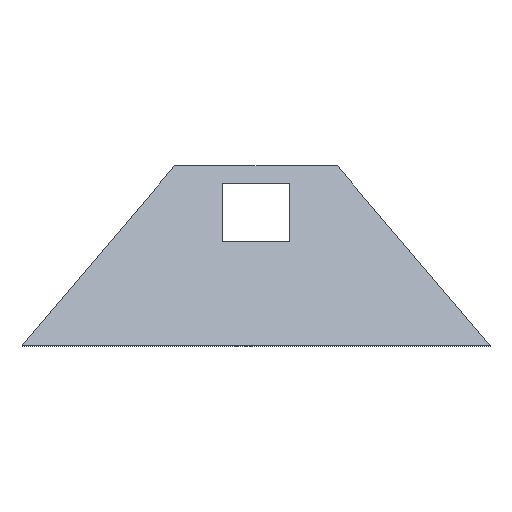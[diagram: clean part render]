
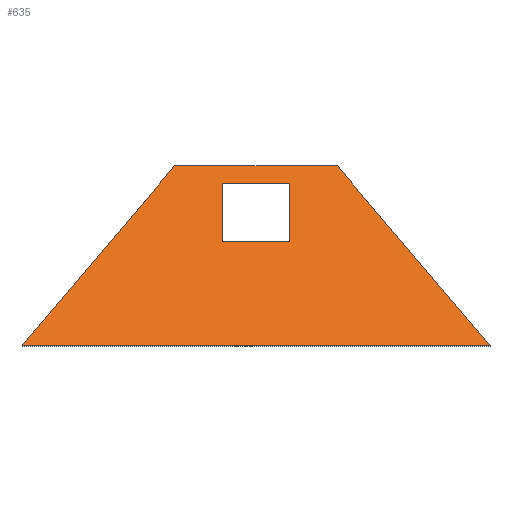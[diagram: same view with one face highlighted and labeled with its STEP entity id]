
A CAD part, top view. The second image highlights one B-rep face of the part: STEP entity #635.
In plain terms, the highlighted planar face has unit normal (0, 0.517, 0.856).
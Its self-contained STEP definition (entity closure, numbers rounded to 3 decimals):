
#22 = VERTEX_POINT('',#23);
#23 = CARTESIAN_POINT('',(-600.,-400.,1600.));
#32 = PLANE('',#33);
#33 = AXIS2_PLACEMENT_3D('',#34,#35,#36);
#34 = CARTESIAN_POINT('',(-600.,-400.,1600.));
#35 = DIRECTION('',(0.,-0.856,0.517));
#36 = DIRECTION('',(1.,0.,0.));
#44 = PLANE('',#45);
#45 = AXIS2_PLACEMENT_3D('',#46,#47,#48);
#46 = CARTESIAN_POINT('',(-1725.,-1725.,2400.));
#47 = DIRECTION('',(0.809,-0.503,0.304));
#48 = DIRECTION('',(0.588,0.692,-0.418));
#85 = VERTEX_POINT('',#86);
#86 = CARTESIAN_POINT('',(600.,-400.,1600.));
#100 = PLANE('',#101);
#101 = AXIS2_PLACEMENT_3D('',#102,#103,#104);
#102 = CARTESIAN_POINT('',(600.,-400.,1600.));
#103 = DIRECTION('',(-0.809,-0.503,0.304));
#104 = DIRECTION('',(0.588,-0.692,0.418));
#112 = EDGE_CURVE('',#22,#85,#113,.T.);
#113 = SURFACE_CURVE('',#114,(#118,#125),.PCURVE_S1.);
#114 = LINE('',#115,#116);
#115 = CARTESIAN_POINT('',(-600.,-400.,1600.));
#116 = VECTOR('',#117,1.);
#117 = DIRECTION('',(1.,0.,0.));
#118 = PCURVE('',#32,#119);
#119 = DEFINITIONAL_REPRESENTATION('',(#120),#124);
#120 = LINE('',#121,#122);
#121 = CARTESIAN_POINT('',(0.,0.));
#122 = VECTOR('',#123,1.);
#123 = DIRECTION('',(1.,0.));
#124 = ( GEOMETRIC_REPRESENTATION_CONTEXT(2) 
PARAMETRIC_REPRESENTATION_CONTEXT() REPRESENTATION_CONTEXT('2D SPACE',''
  ) );
#125 = PCURVE('',#126,#131);
#126 = PLANE('',#127);
#127 = AXIS2_PLACEMENT_3D('',#128,#129,#130);
#128 = CARTESIAN_POINT('',(0.,-1238.346,
    2106.171));
#129 = DIRECTION('',(-0.,-0.517,-0.856));
#130 = DIRECTION('',(0.,-0.856,0.517));
#131 = DEFINITIONAL_REPRESENTATION('',(#132),#136);
#132 = LINE('',#133,#134);
#133 = CARTESIAN_POINT('',(-979.302,600.));
#134 = VECTOR('',#135,1.);
#135 = DIRECTION('',(0.,-1.));
#136 = ( GEOMETRIC_REPRESENTATION_CONTEXT(2) 
PARAMETRIC_REPRESENTATION_CONTEXT() REPRESENTATION_CONTEXT('2D SPACE',''
  ) );
#166 = VERTEX_POINT('',#167);
#167 = CARTESIAN_POINT('',(1725.,-1725.,2400.));
#181 = PLANE('',#182);
#182 = AXIS2_PLACEMENT_3D('',#183,#184,#185);
#183 = CARTESIAN_POINT('',(1725.,-1725.,2400.));
#184 = DIRECTION('',(0.,0.856,-0.517));
#185 = DIRECTION('',(-1.,0.,0.));
#193 = EDGE_CURVE('',#85,#166,#194,.T.);
#194 = SURFACE_CURVE('',#195,(#199,#206),.PCURVE_S1.);
#195 = LINE('',#196,#197);
#196 = CARTESIAN_POINT('',(600.,-400.,1600.));
#197 = VECTOR('',#198,1.);
#198 = DIRECTION('',(0.588,-0.692,0.418));
#199 = PCURVE('',#100,#200);
#200 = DEFINITIONAL_REPRESENTATION('',(#201),#205);
#201 = LINE('',#202,#203);
#202 = CARTESIAN_POINT('',(0.,0.));
#203 = VECTOR('',#204,1.);
#204 = DIRECTION('',(1.,0.));
#205 = ( GEOMETRIC_REPRESENTATION_CONTEXT(2) 
PARAMETRIC_REPRESENTATION_CONTEXT() REPRESENTATION_CONTEXT('2D SPACE',''
  ) );
#206 = PCURVE('',#126,#207);
#207 = DEFINITIONAL_REPRESENTATION('',(#208),#212);
#208 = LINE('',#209,#210);
#209 = CARTESIAN_POINT('',(-979.302,-600.));
#210 = VECTOR('',#211,1.);
#211 = DIRECTION('',(0.809,-0.588));
#212 = ( GEOMETRIC_REPRESENTATION_CONTEXT(2) 
PARAMETRIC_REPRESENTATION_CONTEXT() REPRESENTATION_CONTEXT('2D SPACE',''
  ) );
#242 = VERTEX_POINT('',#243);
#243 = CARTESIAN_POINT('',(-1725.,-1725.,2400.));
#264 = EDGE_CURVE('',#166,#242,#265,.T.);
#265 = SURFACE_CURVE('',#266,(#270,#277),.PCURVE_S1.);
#266 = LINE('',#267,#268);
#267 = CARTESIAN_POINT('',(1725.,-1725.,2400.));
#268 = VECTOR('',#269,1.);
#269 = DIRECTION('',(-1.,0.,0.));
#270 = PCURVE('',#181,#271);
#271 = DEFINITIONAL_REPRESENTATION('',(#272),#276);
#272 = LINE('',#273,#274);
#273 = CARTESIAN_POINT('',(0.,0.));
#274 = VECTOR('',#275,1.);
#275 = DIRECTION('',(1.,0.));
#276 = ( GEOMETRIC_REPRESENTATION_CONTEXT(2) 
PARAMETRIC_REPRESENTATION_CONTEXT() REPRESENTATION_CONTEXT('2D SPACE',''
  ) );
#277 = PCURVE('',#126,#278);
#278 = DEFINITIONAL_REPRESENTATION('',(#279),#283);
#279 = LINE('',#280,#281);
#280 = CARTESIAN_POINT('',(568.478,-1725.));
#281 = VECTOR('',#282,1.);
#282 = DIRECTION('',(0.,1.));
#283 = ( GEOMETRIC_REPRESENTATION_CONTEXT(2) 
PARAMETRIC_REPRESENTATION_CONTEXT() REPRESENTATION_CONTEXT('2D SPACE',''
  ) );
#311 = EDGE_CURVE('',#242,#22,#312,.T.);
#312 = SURFACE_CURVE('',#313,(#317,#324),.PCURVE_S1.);
#313 = LINE('',#314,#315);
#314 = CARTESIAN_POINT('',(-1725.,-1725.,2400.));
#315 = VECTOR('',#316,1.);
#316 = DIRECTION('',(0.588,0.692,-0.418));
#317 = PCURVE('',#44,#318);
#318 = DEFINITIONAL_REPRESENTATION('',(#319),#323);
#319 = LINE('',#320,#321);
#320 = CARTESIAN_POINT('',(0.,0.));
#321 = VECTOR('',#322,1.);
#322 = DIRECTION('',(1.,0.));
#323 = ( GEOMETRIC_REPRESENTATION_CONTEXT(2) 
PARAMETRIC_REPRESENTATION_CONTEXT() REPRESENTATION_CONTEXT('2D SPACE',''
  ) );
#324 = PCURVE('',#126,#325);
#325 = DEFINITIONAL_REPRESENTATION('',(#326),#330);
#326 = LINE('',#327,#328);
#327 = CARTESIAN_POINT('',(568.478,1725.));
#328 = VECTOR('',#329,1.);
#329 = DIRECTION('',(-0.809,-0.588));
#330 = ( GEOMETRIC_REPRESENTATION_CONTEXT(2) 
PARAMETRIC_REPRESENTATION_CONTEXT() REPRESENTATION_CONTEXT('2D SPACE',''
  ) );
#336 = VERTEX_POINT('',#337);
#337 = CARTESIAN_POINT('',(-250.,-956.442,1935.965));
#346 = PLANE('',#347);
#347 = AXIS2_PLACEMENT_3D('',#348,#349,#350);
#348 = CARTESIAN_POINT('',(-250.,-956.442,1935.965));
#349 = DIRECTION('',(1.,0.,0.));
#350 = DIRECTION('',(0.,0.856,-0.517));
#358 = PLANE('',#359);
#359 = AXIS2_PLACEMENT_3D('',#360,#361,#362);
#360 = CARTESIAN_POINT('',(250.,-956.442,1935.965));
#361 = DIRECTION('',(0.,0.856,-0.517));
#362 = DIRECTION('',(-1.,0.,0.));
#394 = VERTEX_POINT('',#395);
#395 = CARTESIAN_POINT('',(-250.,-528.41,1677.53));
#409 = PLANE('',#410);
#410 = AXIS2_PLACEMENT_3D('',#411,#412,#413);
#411 = CARTESIAN_POINT('',(-250.,-528.41,1677.53));
#412 = DIRECTION('',(0.,-0.856,0.517));
#413 = DIRECTION('',(1.,0.,0.));
#421 = EDGE_CURVE('',#336,#394,#422,.T.);
#422 = SURFACE_CURVE('',#423,(#427,#434),.PCURVE_S1.);
#423 = LINE('',#424,#425);
#424 = CARTESIAN_POINT('',(-250.,-956.442,1935.965));
#425 = VECTOR('',#426,1.);
#426 = DIRECTION('',(0.,0.856,-0.517));
#427 = PCURVE('',#346,#428);
#428 = DEFINITIONAL_REPRESENTATION('',(#429),#433);
#429 = LINE('',#430,#431);
#430 = CARTESIAN_POINT('',(0.,0.));
#431 = VECTOR('',#432,1.);
#432 = DIRECTION('',(1.,0.));
#433 = ( GEOMETRIC_REPRESENTATION_CONTEXT(2) 
PARAMETRIC_REPRESENTATION_CONTEXT() REPRESENTATION_CONTEXT('2D SPACE',''
  ) );
#434 = PCURVE('',#126,#435);
#435 = DEFINITIONAL_REPRESENTATION('',(#436),#440);
#436 = LINE('',#437,#438);
#437 = CARTESIAN_POINT('',(-329.302,250.));
#438 = VECTOR('',#439,1.);
#439 = DIRECTION('',(-1.,0.));
#440 = ( GEOMETRIC_REPRESENTATION_CONTEXT(2) 
PARAMETRIC_REPRESENTATION_CONTEXT() REPRESENTATION_CONTEXT('2D SPACE',''
  ) );
#446 = VERTEX_POINT('',#447);
#447 = CARTESIAN_POINT('',(250.,-956.442,1935.965));
#463 = PLANE('',#464);
#464 = AXIS2_PLACEMENT_3D('',#465,#466,#467);
#465 = CARTESIAN_POINT('',(250.,-528.41,1677.53));
#466 = DIRECTION('',(-1.,-0.,0.));
#467 = DIRECTION('',(0.,-0.856,0.517));
#497 = EDGE_CURVE('',#446,#336,#498,.T.);
#498 = SURFACE_CURVE('',#499,(#503,#510),.PCURVE_S1.);
#499 = LINE('',#500,#501);
#500 = CARTESIAN_POINT('',(250.,-956.442,1935.965));
#501 = VECTOR('',#502,1.);
#502 = DIRECTION('',(-1.,0.,0.));
#503 = PCURVE('',#358,#504);
#504 = DEFINITIONAL_REPRESENTATION('',(#505),#509);
#505 = LINE('',#506,#507);
#506 = CARTESIAN_POINT('',(0.,0.));
#507 = VECTOR('',#508,1.);
#508 = DIRECTION('',(1.,0.));
#509 = ( GEOMETRIC_REPRESENTATION_CONTEXT(2) 
PARAMETRIC_REPRESENTATION_CONTEXT() REPRESENTATION_CONTEXT('2D SPACE',''
  ) );
#510 = PCURVE('',#126,#511);
#511 = DEFINITIONAL_REPRESENTATION('',(#512),#516);
#512 = LINE('',#513,#514);
#513 = CARTESIAN_POINT('',(-329.302,-250.));
#514 = VECTOR('',#515,1.);
#515 = DIRECTION('',(0.,1.));
#516 = ( GEOMETRIC_REPRESENTATION_CONTEXT(2) 
PARAMETRIC_REPRESENTATION_CONTEXT() REPRESENTATION_CONTEXT('2D SPACE',''
  ) );
#522 = VERTEX_POINT('',#523);
#523 = CARTESIAN_POINT('',(250.,-528.41,1677.53));
#568 = EDGE_CURVE('',#522,#446,#569,.T.);
#569 = SURFACE_CURVE('',#570,(#574,#581),.PCURVE_S1.);
#570 = LINE('',#571,#572);
#571 = CARTESIAN_POINT('',(250.,-528.41,1677.53));
#572 = VECTOR('',#573,1.);
#573 = DIRECTION('',(0.,-0.856,0.517));
#574 = PCURVE('',#463,#575);
#575 = DEFINITIONAL_REPRESENTATION('',(#576),#580);
#576 = LINE('',#577,#578);
#577 = CARTESIAN_POINT('',(0.,0.));
#578 = VECTOR('',#579,1.);
#579 = DIRECTION('',(1.,0.));
#580 = ( GEOMETRIC_REPRESENTATION_CONTEXT(2) 
PARAMETRIC_REPRESENTATION_CONTEXT() REPRESENTATION_CONTEXT('2D SPACE',''
  ) );
#581 = PCURVE('',#126,#582);
#582 = DEFINITIONAL_REPRESENTATION('',(#583),#587);
#583 = LINE('',#584,#585);
#584 = CARTESIAN_POINT('',(-829.302,-250.));
#585 = VECTOR('',#586,1.);
#586 = DIRECTION('',(1.,0.));
#587 = ( GEOMETRIC_REPRESENTATION_CONTEXT(2) 
PARAMETRIC_REPRESENTATION_CONTEXT() REPRESENTATION_CONTEXT('2D SPACE',''
  ) );
#615 = EDGE_CURVE('',#394,#522,#616,.T.);
#616 = SURFACE_CURVE('',#617,(#621,#628),.PCURVE_S1.);
#617 = LINE('',#618,#619);
#618 = CARTESIAN_POINT('',(-250.,-528.41,1677.53));
#619 = VECTOR('',#620,1.);
#620 = DIRECTION('',(1.,0.,0.));
#621 = PCURVE('',#409,#622);
#622 = DEFINITIONAL_REPRESENTATION('',(#623),#627);
#623 = LINE('',#624,#625);
#624 = CARTESIAN_POINT('',(0.,0.));
#625 = VECTOR('',#626,1.);
#626 = DIRECTION('',(1.,0.));
#627 = ( GEOMETRIC_REPRESENTATION_CONTEXT(2) 
PARAMETRIC_REPRESENTATION_CONTEXT() REPRESENTATION_CONTEXT('2D SPACE',''
  ) );
#628 = PCURVE('',#126,#629);
#629 = DEFINITIONAL_REPRESENTATION('',(#630),#634);
#630 = LINE('',#631,#632);
#631 = CARTESIAN_POINT('',(-829.302,250.));
#632 = VECTOR('',#633,1.);
#633 = DIRECTION('',(0.,-1.));
#634 = ( GEOMETRIC_REPRESENTATION_CONTEXT(2) 
PARAMETRIC_REPRESENTATION_CONTEXT() REPRESENTATION_CONTEXT('2D SPACE',''
  ) );
#635 = ADVANCED_FACE('',(#636,#642),#126,.F.);
#636 = FACE_BOUND('',#637,.F.);
#637 = EDGE_LOOP('',(#638,#639,#640,#641));
#638 = ORIENTED_EDGE('',*,*,#112,.T.);
#639 = ORIENTED_EDGE('',*,*,#193,.T.);
#640 = ORIENTED_EDGE('',*,*,#264,.T.);
#641 = ORIENTED_EDGE('',*,*,#311,.T.);
#642 = FACE_BOUND('',#643,.F.);
#643 = EDGE_LOOP('',(#644,#645,#646,#647));
#644 = ORIENTED_EDGE('',*,*,#421,.F.);
#645 = ORIENTED_EDGE('',*,*,#497,.F.);
#646 = ORIENTED_EDGE('',*,*,#568,.F.);
#647 = ORIENTED_EDGE('',*,*,#615,.F.);
